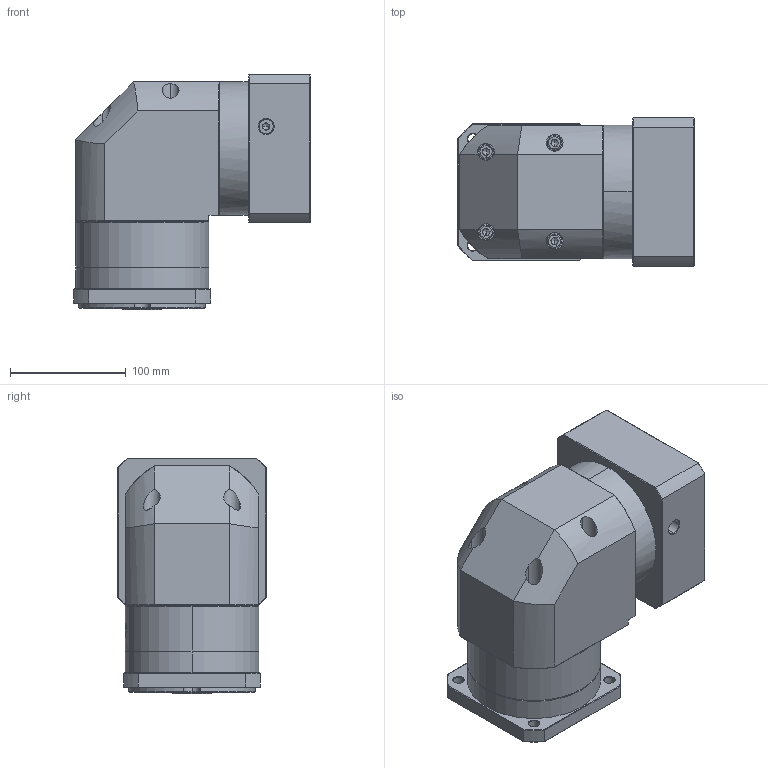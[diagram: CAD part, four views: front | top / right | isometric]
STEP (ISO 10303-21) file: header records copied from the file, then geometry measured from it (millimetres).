
FILE_DESCRIPTION (( 'STEP AP214' ), '1' );
FILE_NAME ('ZFR120A-K25-L1-P2-28-110-145-M8.step', '2023-08-27T08:14:26', ( '' ), ( '' ), 'SwSTEP 2.0', 'SolidWorks 2016', '' );
FILE_SCHEMA (( 'AUTOMOTIVE_DESIGN' ));
Length unit declared in the file: millimetre
Products named in the file (1): ZFR120A-K25-L1-P2-28-110-145-M8
Bounding box: 203.9 x 128 x 203 mm (x, y, z)
Volume: 3036930.3 mm3; surface area: 257039.2 mm2
Topology: 6 solids, 6 shells, 2211 faces, 5830 edges, 3721 vertices
Faces by surface type: plane 1055, bspline 416, cylinder 401, cone 331, torus 8
Entity records: 118738 total; most frequent: CARTESIAN_POINT 45094, ORIENTED_EDGE 11604, DIRECTION 8422, EDGE_CURVE 5802, VERTEX_POINT 3721, LINE 3110, VECTOR 3110, AXIS2_PLACEMENT_3D 2656
